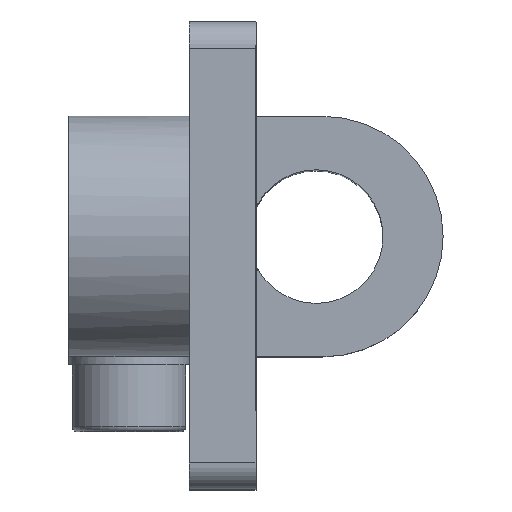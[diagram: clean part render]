
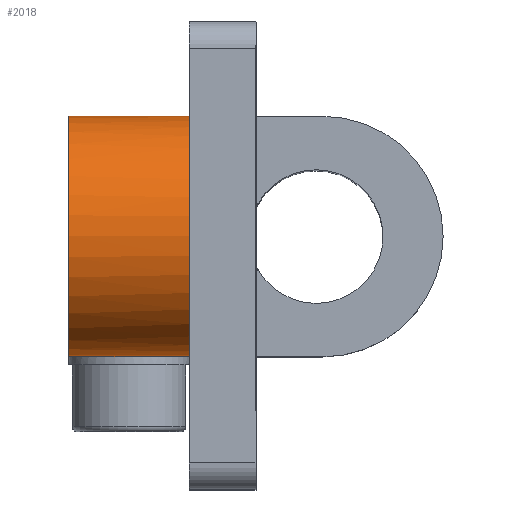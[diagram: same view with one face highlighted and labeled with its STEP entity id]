
A CAD part, top view. The second image highlights one B-rep face of the part: STEP entity #2018.
In plain terms, the highlighted cylindrical face has radius 9 mm (diameter 18 mm), a partial arc.
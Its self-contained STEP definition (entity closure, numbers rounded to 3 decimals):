
#123=CYLINDRICAL_SURFACE('',#2258,9.);
#222=FACE_OUTER_BOUND('',#348,.T.);
#348=EDGE_LOOP('',(#1746,#1747,#1748,#1749,#1750,#1751));
#461=LINE('',#3272,#611);
#501=LINE('',#3513,#651);
#611=VECTOR('',#2711,10.);
#651=VECTOR('',#2847,10.);
#681=CIRCLE('',#2094,9.);
#741=CIRCLE('',#2206,9.);
#742=CIRCLE('',#2208,9.);
#772=CIRCLE('',#2259,9.);
#811=VERTEX_POINT('',#2981);
#812=VERTEX_POINT('',#2982);
#896=VERTEX_POINT('',#3253);
#897=VERTEX_POINT('',#3257);
#903=VERTEX_POINT('',#3270);
#950=VERTEX_POINT('',#3511);
#1005=EDGE_CURVE('',#811,#812,#681,.T.);
#1141=EDGE_CURVE('',#812,#896,#741,.T.);
#1142=EDGE_CURVE('',#897,#811,#742,.T.);
#1149=EDGE_CURVE('',#896,#903,#461,.T.);
#1224=EDGE_CURVE('',#903,#950,#772,.T.);
#1225=EDGE_CURVE('',#950,#897,#501,.T.);
#1746=ORIENTED_EDGE('',*,*,#1142,.T.);
#1747=ORIENTED_EDGE('',*,*,#1005,.T.);
#1748=ORIENTED_EDGE('',*,*,#1141,.T.);
#1749=ORIENTED_EDGE('',*,*,#1149,.T.);
#1750=ORIENTED_EDGE('',*,*,#1224,.T.);
#1751=ORIENTED_EDGE('',*,*,#1225,.T.);
#2018=ADVANCED_FACE('',(#222),#123,.T.);
#2094=AXIS2_PLACEMENT_3D('',#2983,#2395,#2396);
#2206=AXIS2_PLACEMENT_3D('',#3255,#2695,#2696);
#2208=AXIS2_PLACEMENT_3D('',#3258,#2699,#2700);
#2258=AXIS2_PLACEMENT_3D('',#3510,#2843,#2844);
#2259=AXIS2_PLACEMENT_3D('',#3512,#2845,#2846);
#2395=DIRECTION('center_axis',(-1.,0.,0.));
#2396=DIRECTION('ref_axis',(0.,0.707,0.707));
#2695=DIRECTION('center_axis',(-1.,0.,0.));
#2696=DIRECTION('ref_axis',(0.,0.707,0.707));
#2699=DIRECTION('center_axis',(-1.,0.,0.));
#2700=DIRECTION('ref_axis',(0.,0.707,0.707));
#2711=DIRECTION('',(-1.,0.,0.));
#2843=DIRECTION('center_axis',(1.,0.,0.));
#2844=DIRECTION('ref_axis',(0.,0.707,0.707));
#2845=DIRECTION('center_axis',(1.,0.,0.));
#2846=DIRECTION('ref_axis',(0.,-0.707,0.707));
#2847=DIRECTION('',(1.,0.,0.));
#2981=CARTESIAN_POINT('',(-9.5,-7.5,65.975));
#2982=CARTESIAN_POINT('',(-9.5,7.5,65.975));
#2983=CARTESIAN_POINT('Origin',(-9.5,0.,61.));
#3253=CARTESIAN_POINT('',(-9.5,9.,61.));
#3255=CARTESIAN_POINT('Origin',(-9.5,0.,61.));
#3257=CARTESIAN_POINT('',(-9.5,-9.,61.));
#3258=CARTESIAN_POINT('Origin',(-9.5,0.,61.));
#3270=CARTESIAN_POINT('',(-18.5,9.,61.));
#3272=CARTESIAN_POINT('',(-11.5,9.,61.));
#3510=CARTESIAN_POINT('Origin',(-11.5,0.,61.));
#3511=CARTESIAN_POINT('',(-18.5,-9.,61.));
#3512=CARTESIAN_POINT('Origin',(-18.5,0.,61.));
#3513=CARTESIAN_POINT('',(2.5,-9.,61.));
